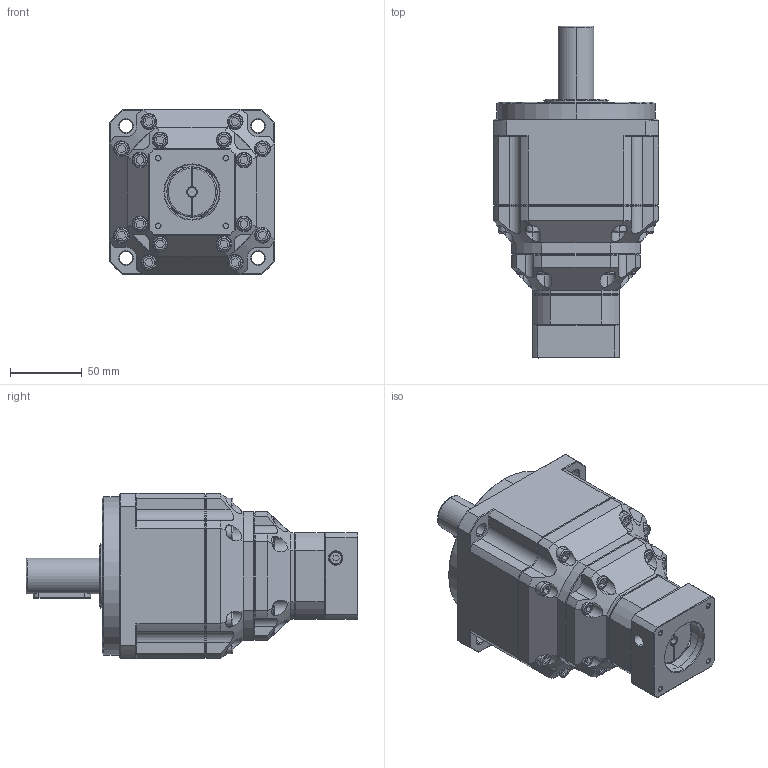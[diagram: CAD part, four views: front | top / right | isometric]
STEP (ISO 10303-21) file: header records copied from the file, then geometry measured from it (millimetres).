
FILE_DESCRIPTION (( 'STEP AP214' ), '1' );
FILE_NAME ('ZPB115-D25-L3-P1-6.35-38.1-47.14X47.14-M4.step', '2024-06-12T09:54:14', ( 'Windows 蚚誧' ), ( 'Organization' ), 'SwSTEP 2.0', 'SolidWorks 2016', '' );
FILE_SCHEMA (( 'AUTOMOTIVE_DESIGN' ));
Length unit declared in the file: millimetre
Products named in the file (1): ZPB115-D25-L3-P1-6.35-38.1-47.14X47.14-M4
Bounding box: 115 x 231 x 115 mm (x, y, z)
Surface area: 110677.8 mm2 (no closed solid volume)
Topology: 0 solids, 2 shells, 1970 faces, 5309 edges, 3451 vertices
Faces by surface type: plane 1125, bspline 414, cylinder 256, cone 175
Full cylindrical faces by diameter (mm): 10.2 x4
Entity records: 105741 total; most frequent: CARTESIAN_POINT 51779, ORIENTED_EDGE 10420, DIRECTION 7816, EDGE_CURVE 5219, LINE 3412, VECTOR 3412, VERTEX_POINT 3387, AXIS2_PLACEMENT_3D 2202
